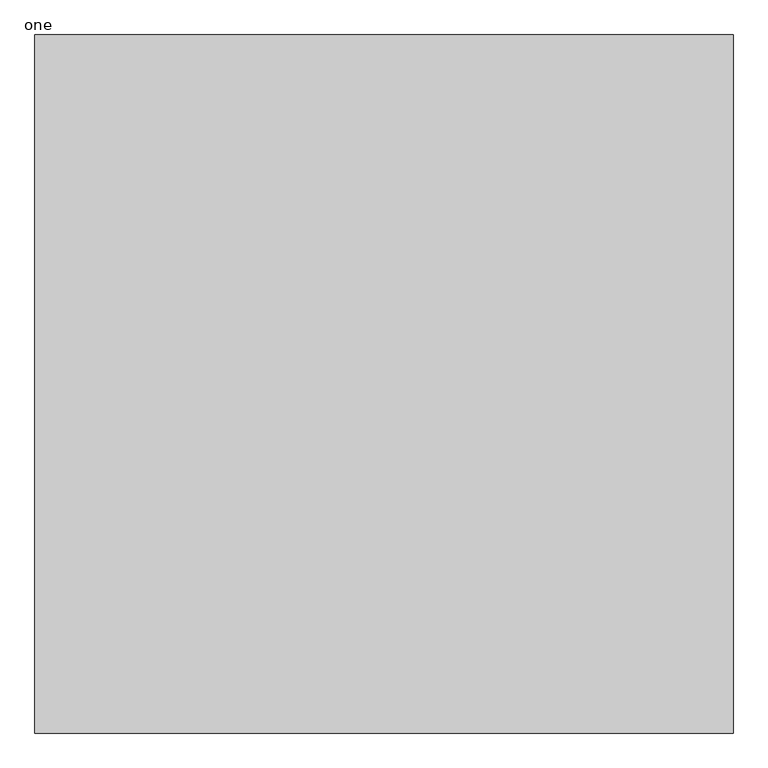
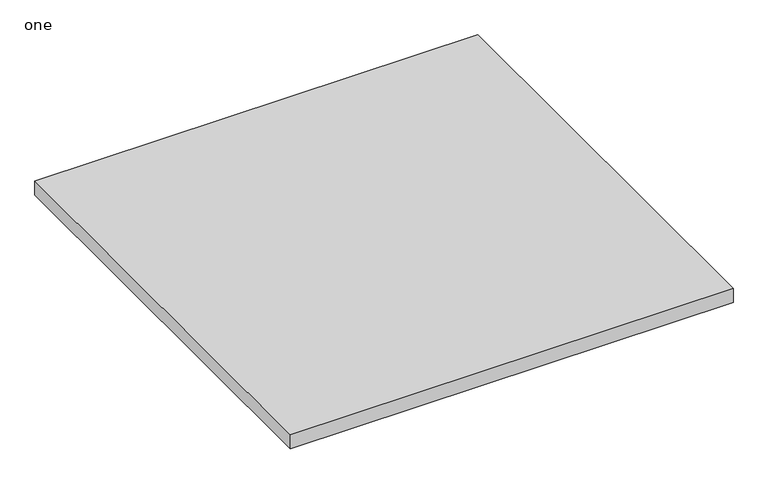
"""IFC4 building model written with IfcOpenShell, lengths in millimetres: proxy geometry, OWA Creaprint : one."""

from ifc_helpers import new_model, si_unit, origin, origin_with_axes, place, context, project, spatial, polyline, outline, extrude, source, transform, mapped, element, save


def one_72121b87(model_context):
    return source(origin(), model_context, "Body", "SweptSolid", [
        extrude(outline(polyline([(-1033.5, 600.0), (166.5, 600.0), (166.5, -600.0), (-1033.5, -600.0), (-1033.5, 600.0)])), origin_with_axes(), (0.0, 0.0, 1.0), 40.0),
    ])


if __name__ == "__main__":
    model = new_model("IFC4")
    model_context = context("Model", 3, world=origin())
    ifc_project = project(units=[si_unit("LENGTHUNIT", "METRE", prefix="MILLI")], contexts=[model_context])
    site = spatial("IfcSite", under=ifc_project)
    building = spatial("IfcBuilding", under=site)
    placement = place(None, origin())
    one_shape = one_72121b87(model_context)
    element("IfcBuildingElementProxy", 1, Name="OWA Creaprint : one", ObjectType="OWA Creaprint : one", at=placement, inside=building, context=model_context, shape_type="MappedRepresentation", body=[
        mapped(one_shape, transform((0.0, 0.0, 0.0), x_axis=(1.0, 0.0, 0.0), y_axis=(0.0, 1.0, 0.0), z_axis=(0.0, 0.0, 1.0))),
    ])
    save(model, "model.ifc")
